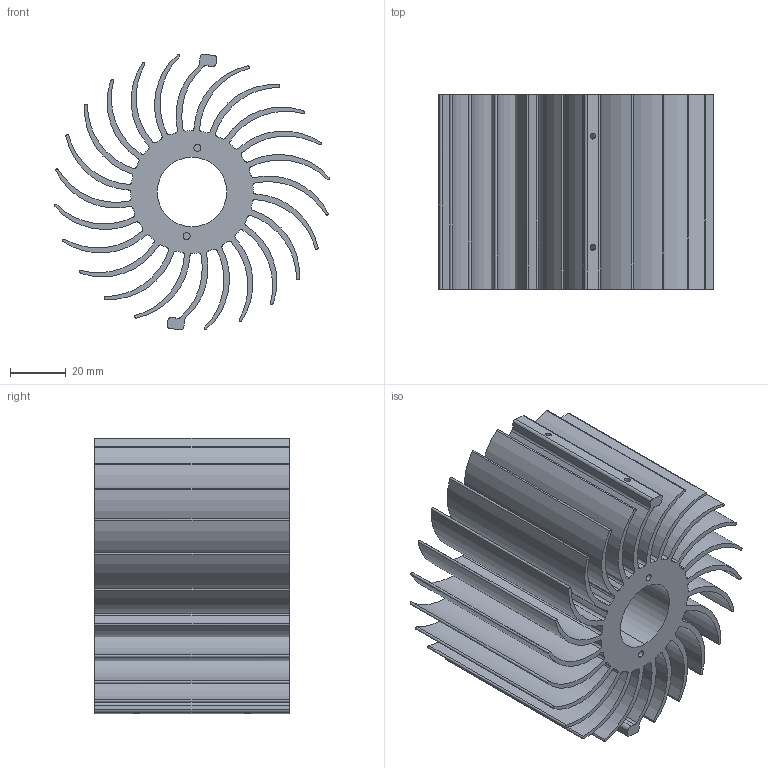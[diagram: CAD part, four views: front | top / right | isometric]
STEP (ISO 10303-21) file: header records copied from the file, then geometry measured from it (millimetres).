
FILE_DESCRIPTION((''),'2;1');
FILE_NAME('X00511_REVD','2012-06-04T',('Jonah'),(''),'PRO/ENGINEER BY PARAMETRIC TECHNOLOGY CORPORATION, 2010230','PRO/ENGINEER BY PARAMETRIC TECHNOLOGY CORPORATION, 2010230','');
FILE_SCHEMA(('CONFIG_CONTROL_DESIGN'));
Length unit declared in the file: millimetre
Products named in the file (1): X00511_REVD
Bounding box: 98.9 x 70 x 99.16 mm (x, y, z)
Volume: 169535.1 mm3; surface area: 125879.1 mm2
Topology: 1 solids, 1 shells, 193 faces, 564 edges, 376 vertices
Faces by surface type: cylinder 178, plane 15
Entity records: 6926 total; most frequent: CARTESIAN_POINT 1559, DIRECTION 1194, ORIENTED_EDGE 1128, EDGE_CURVE 564, AXIS2_PLACEMENT_3D 497, VERTEX_POINT 376, CIRCLE 304, EDGE_LOOP 206
